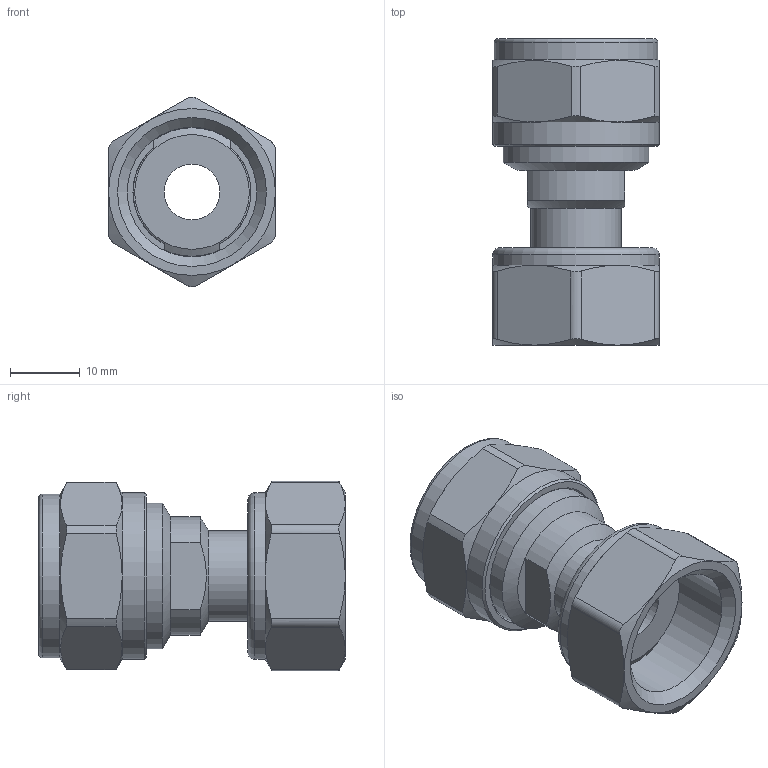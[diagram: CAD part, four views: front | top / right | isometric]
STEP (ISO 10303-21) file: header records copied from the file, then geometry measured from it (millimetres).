
FILE_DESCRIPTION(('STEP AP203'), '1');
FILE_NAME('VTm.322.N.001604', '', ('UNSPECIFIED'), ('UNSPECIFIED'), 'C3D Converter', 'C3D Toolkit', '');
FILE_SCHEMA(('CONFIG_CONTROL_DESIGN'));
Length unit declared in the file: millimetre
Products named in the file (1): ВР.302634.078.000 СБ
Bounding box: 24 x 44.11 x 27.24 mm (x, y, z)
Volume: 10805.7 mm3; surface area: 9075.9 mm2
Topology: 2 solids, 2 shells, 327 faces, 865 edges, 562 vertices
Faces by surface type: extrusion 111, plane 107, cylinder 45, cone 35, torus 29
Full cylindrical faces by diameter (mm): 8 x1, 11.8 x4, 12.4 x1, 13 x1, 14 x1, 16.2 x1, 16.7 x1, 17 x1, 18.632 x2, 20.955 x1, 23.5 x1, 24 x2
Entity records: 12277 total; most frequent: CARTESIAN_POINT 4873, ORIENTED_EDGE 1644, DIRECTION 1161, EDGE_CURVE 822, VERTEX_POINT 562, VECTOR 443, B_SPLINE_CURVE_WITH_KNOTS 439, EDGE_LOOP 396
